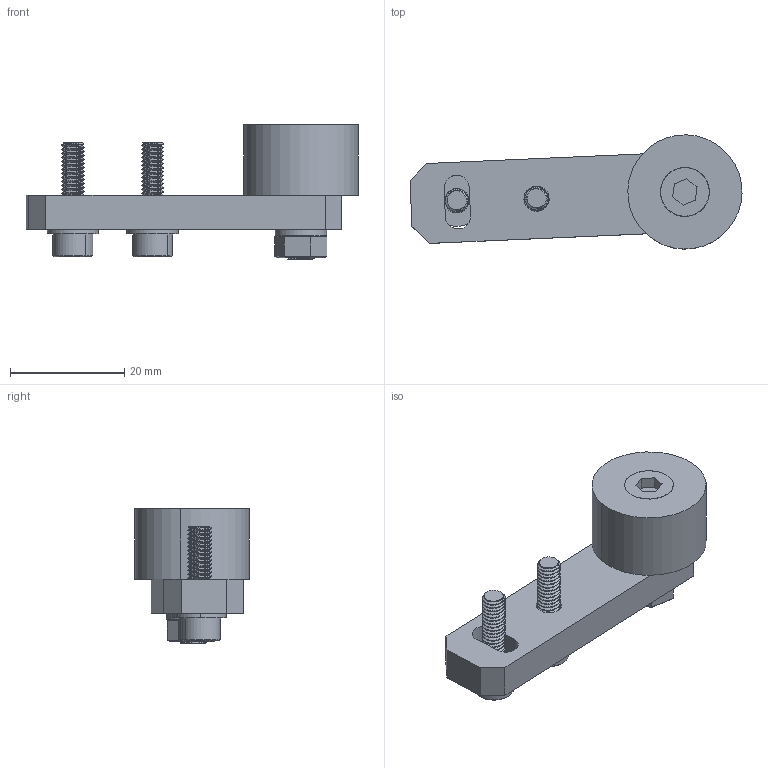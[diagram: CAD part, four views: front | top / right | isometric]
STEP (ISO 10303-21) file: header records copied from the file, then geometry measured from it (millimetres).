
FILE_DESCRIPTION (( 'STEP AP214' ), '1' );
FILE_NAME ('ACC098_Roller_FlexAB_DBR.STEP', '2025-10-22T11:18:50', ( '' ), ( '' ), 'SwSTEP 2.0', 'SolidWorks 2024', '' );
FILE_SCHEMA (( 'AUTOMOTIVE_DESIGN' ));
Length unit declared in the file: millimetre
Products named in the file (1): ACC098_Roller_FlexAB_DBR
Bounding box: 58.13 x 19.99 x 23.5 mm (x, y, z)
Volume: 8977 mm3; surface area: 6283.1 mm2
Topology: 9 solids, 9 shells, 251 faces, 662 edges, 436 vertices
Faces by surface type: cylinder 160, plane 72, cone 10, bspline 9
Entity records: 26144 total; most frequent: CARTESIAN_POINT 17734, ORIENTED_EDGE 1324, DIRECTION 943, EDGE_CURVE 662, VERTEX_POINT 436, AXIS2_PLACEMENT_3D 325, LINE 293, VECTOR 293
